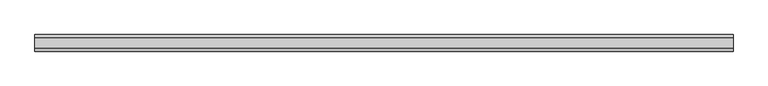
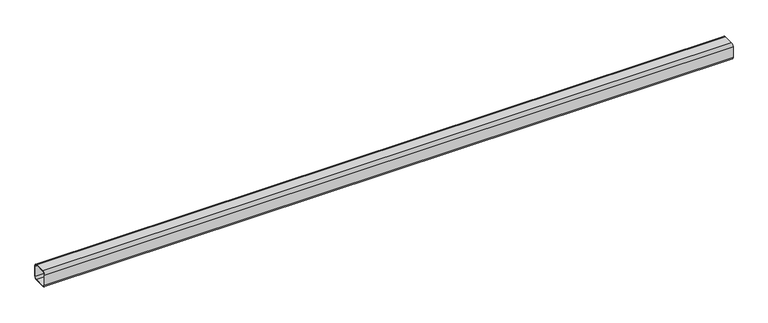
"""IFC4 building model written with IfcOpenShell, lengths in millimetres: beam geometry, Гнутый квадратный профиль (ТУ BE25577 - 83) Балки : гнутый квадрат. проф. 100x5."""

from ifc_helpers import new_model, si_unit, point, frame, frame_2d, origin, place, context, project, spatial, polyline, circle_curve, trimmed, segment, composite_curve, outline, extrude, source, transform, mapped, element, save


def beam_04f6dccd(model_context):
    return source(origin(), model_context, "Body", "SweptSolid", [
        extrude(outline(composite_curve([segment(polyline([(-33.0, 50.0), (33.0, 50.0)]), True, "CONTINUOUS"), segment(trimmed(circle_curve(frame_2d((33.0, 33.0)), 17.0), [point((33.0, 50.0))], [point((50.0, 33.0))], False, "CARTESIAN"), True, "CONTINUOUS"), segment(polyline([(50.0, 33.0), (50.0, -33.0)]), True, "CONTINUOUS"), segment(trimmed(circle_curve(frame_2d((33.0, -33.0)), 17.0), [point((50.0, -33.0))], [point((33.0, -50.0))], False, "CARTESIAN"), True, "CONTINUOUS"), segment(polyline([(33.0, -50.0), (-33.0, -50.0)]), True, "CONTINUOUS"), segment(trimmed(circle_curve(frame_2d((-33.0, -33.0)), 17.0), [point((-33.0, -50.0))], [point((-50.0, -33.0))], False, "CARTESIAN"), True, "CONTINUOUS"), segment(polyline([(-50.0, -33.0), (-50.0, 33.0)]), True, "CONTINUOUS"), segment(trimmed(circle_curve(frame_2d((-33.0, 33.0)), 17.0), [point((-50.0, 33.0))], [point((-33.0, 50.0))], False, "CARTESIAN"), True, "CONTINUOUS")], self_intersect=False), holes=[composite_curve([segment(trimmed(circle_curve(frame_2d((-33.0, 33.0)), 12.0), [point((-33.0, 45.0))], [point((-45.0, 33.0))], True, "CARTESIAN"), True, "CONTINUOUS"), segment(polyline([(-45.0, 33.0), (-45.0, -33.0)]), True, "CONTINUOUS"), segment(trimmed(circle_curve(frame_2d((-33.0, -33.0)), 12.0), [point((-45.0, -33.0))], [point((-33.0, -45.0))], True, "CARTESIAN"), True, "CONTINUOUS"), segment(polyline([(-33.0, -45.0), (33.0, -45.0)]), True, "CONTINUOUS"), segment(trimmed(circle_curve(frame_2d((33.0, -33.0)), 12.0), [point((33.0, -45.0))], [point((45.0, -33.0))], True, "CARTESIAN"), True, "CONTINUOUS"), segment(polyline([(45.0, -33.0), (45.0, 33.0)]), True, "CONTINUOUS"), segment(trimmed(circle_curve(frame_2d((33.0, 33.0)), 12.0), [point((45.0, 33.0))], [point((33.0, 45.0))], True, "CARTESIAN"), True, "CONTINUOUS"), segment(polyline([(33.0, 45.0), (-33.0, 45.0)]), True, "CONTINUOUS")], self_intersect=False)]), frame((-2129.0, 0.0, 0.0), z_axis=(1.0, 0.0, 0.0), x_axis=(0.0, 1.0, 0.0)), (0.0, 0.0, 1.0), 4195.0),
    ])


if __name__ == "__main__":
    model = new_model("IFC4")
    model_context = context("Model", 3, world=origin())
    ifc_project = project(units=[si_unit("LENGTHUNIT", "METRE", prefix="MILLI")], contexts=[model_context])
    site = spatial("IfcSite", under=ifc_project)
    building = spatial("IfcBuilding", under=site)
    placement = place(None, origin())
    beam_shape = beam_04f6dccd(model_context)
    element("IfcBeam", 1, ObjectType="Гнутый квадратный профиль (ТУ BE25577 - 83) Балки : гнутый квадрат. проф. 100x5", at=placement, inside=building, context=model_context, shape_type="MappedRepresentation", body=[
        mapped(beam_shape, transform((0.0, 0.0, 0.0), x_axis=(1.0, 0.0, 0.0), y_axis=(0.0, 1.0, 0.0), z_axis=(0.0, 0.0, 1.0))),
    ])
    save(model, "model.ifc")
